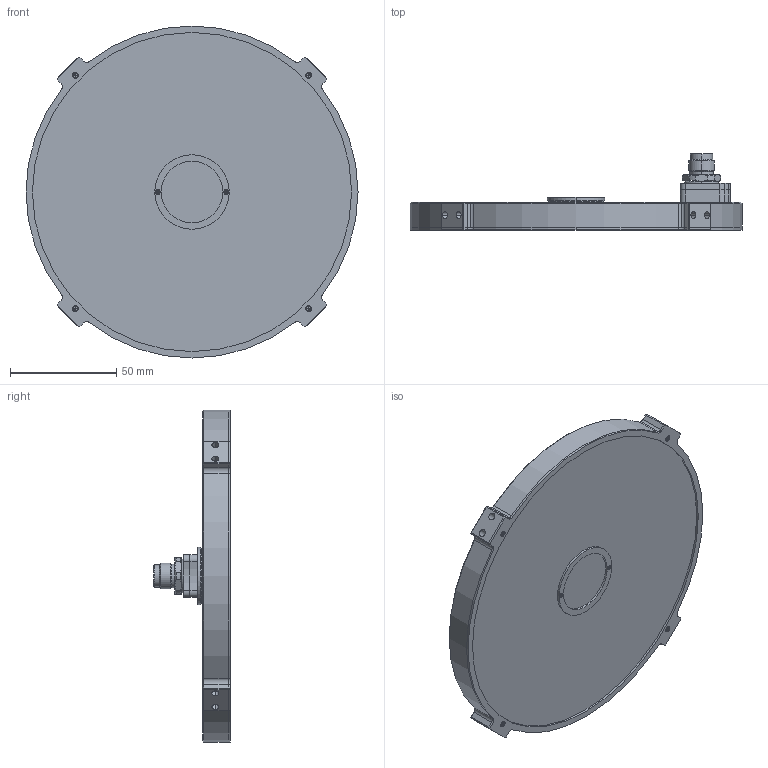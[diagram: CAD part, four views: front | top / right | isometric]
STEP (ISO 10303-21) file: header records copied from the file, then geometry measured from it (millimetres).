
FILE_DESCRIPTION (( 'STEP AP214' ), '1' );
FILE_NAME ('VRBP-15035-PL_Drawing_L1215A-A00102.SLDPRT.STEP', '2024-07-12T07:01:28', ( '' ), ( '' ), 'SwSTEP 2.0', 'SolidWorks 2018', '' );
FILE_SCHEMA (( 'AUTOMOTIVE_DESIGN' ));
Length unit declared in the file: millimetre
Products named in the file (1): VRBP-15035-PL_Drawing_L1215A-A00102.SLDPRT
Bounding box: 156 x 36 x 156 mm (x, y, z)
Surface area: 51939.6 mm2 (no closed solid volume)
Topology: 0 solids, 37 shells, 487 faces, 1621 edges, 1158 vertices
Faces by surface type: plane 240, cylinder 155, cone 80, sphere 10, torus 2
Entity records: 22792 total; most frequent: CARTESIAN_POINT 3337, DIRECTION 3074, ORIENTED_EDGE 2442, EDGE_CURVE 1601, VERTEX_POINT 1148, VECTOR 1056, LINE 1056, AXIS2_PLACEMENT_3D 1009
